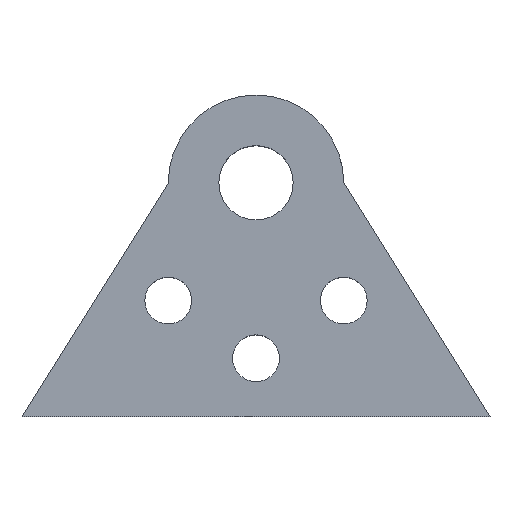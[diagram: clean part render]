
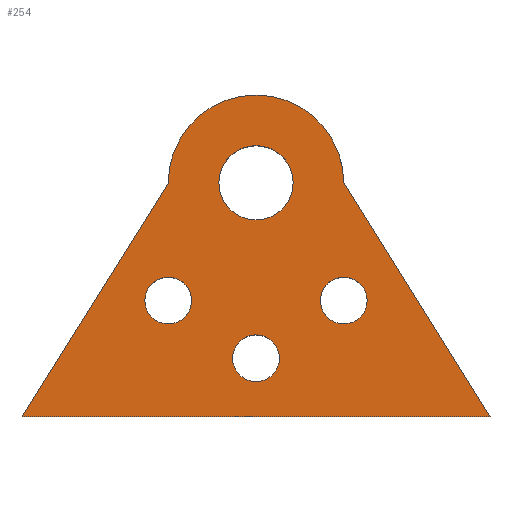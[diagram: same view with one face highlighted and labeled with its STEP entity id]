
A CAD part, top view. The second image highlights one B-rep face of the part: STEP entity #254.
In plain terms, the highlighted planar face has unit normal (0, 0, 1).
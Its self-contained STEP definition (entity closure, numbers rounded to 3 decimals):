
#24=FACE_BOUND('',#96,.T.);
#25=FACE_BOUND('',#97,.T.);
#26=FACE_BOUND('',#98,.T.);
#27=FACE_BOUND('',#99,.T.);
#36=LINE('',#435,#51);
#38=LINE('',#439,#53);
#42=LINE('',#449,#57);
#51=VECTOR('',#363,10.);
#53=VECTOR('',#367,10.);
#57=VECTOR('',#379,10.);
#63=PLANE('',#300);
#77=FACE_OUTER_BOUND('',#95,.T.);
#95=EDGE_LOOP('',(#229,#230,#231,#232,#233));
#96=EDGE_LOOP('',(#234));
#97=EDGE_LOOP('',(#235));
#98=EDGE_LOOP('',(#236));
#99=EDGE_LOOP('',(#237));
#106=CIRCLE('',#278,2.);
#109=CIRCLE('',#283,2.);
#112=CIRCLE('',#288,2.);
#115=CIRCLE('',#293,3.175);
#116=CIRCLE('',#297,7.5);
#117=CIRCLE('',#298,7.5);
#126=VERTEX_POINT('',#403);
#128=VERTEX_POINT('',#411);
#130=VERTEX_POINT('',#419);
#133=VERTEX_POINT('',#428);
#134=VERTEX_POINT('',#432);
#135=VERTEX_POINT('',#434);
#136=VERTEX_POINT('',#438);
#137=VERTEX_POINT('',#442);
#138=VERTEX_POINT('',#445);
#148=EDGE_CURVE('',#126,#126,#106,.T.);
#152=EDGE_CURVE('',#128,#128,#109,.T.);
#156=EDGE_CURVE('',#130,#130,#112,.T.);
#160=EDGE_CURVE('',#133,#133,#115,.T.);
#163=EDGE_CURVE('',#135,#134,#36,.T.);
#165=EDGE_CURVE('',#136,#135,#38,.T.);
#167=EDGE_CURVE('',#137,#136,#116,.T.);
#169=EDGE_CURVE('',#138,#137,#117,.T.);
#171=EDGE_CURVE('',#134,#138,#42,.T.);
#229=ORIENTED_EDGE('',*,*,#171,.T.);
#230=ORIENTED_EDGE('',*,*,#169,.T.);
#231=ORIENTED_EDGE('',*,*,#167,.T.);
#232=ORIENTED_EDGE('',*,*,#165,.T.);
#233=ORIENTED_EDGE('',*,*,#163,.T.);
#234=ORIENTED_EDGE('',*,*,#156,.T.);
#235=ORIENTED_EDGE('',*,*,#160,.T.);
#236=ORIENTED_EDGE('',*,*,#148,.T.);
#237=ORIENTED_EDGE('',*,*,#152,.T.);
#254=ADVANCED_FACE('',(#77,#24,#25,#26,#27),#63,.T.);
#278=AXIS2_PLACEMENT_3D('',#404,#324,#325);
#283=AXIS2_PLACEMENT_3D('',#412,#335,#336);
#288=AXIS2_PLACEMENT_3D('',#420,#346,#347);
#293=AXIS2_PLACEMENT_3D('',#429,#357,#358);
#297=AXIS2_PLACEMENT_3D('',#443,#371,#372);
#298=AXIS2_PLACEMENT_3D('',#446,#374,#375);
#300=AXIS2_PLACEMENT_3D('',#450,#380,#381);
#324=DIRECTION('center_axis',(0.,0.,-1.));
#325=DIRECTION('ref_axis',(1.,0.,0.));
#335=DIRECTION('center_axis',(0.,0.,-1.));
#336=DIRECTION('ref_axis',(1.,0.,0.));
#346=DIRECTION('center_axis',(0.,0.,-1.));
#347=DIRECTION('ref_axis',(1.,0.,0.));
#357=DIRECTION('center_axis',(0.,0.,-1.));
#358=DIRECTION('ref_axis',(1.,0.,0.));
#363=DIRECTION('',(1.,0.,0.));
#367=DIRECTION('',(-0.531,-0.847,0.));
#371=DIRECTION('center_axis',(0.,0.,1.));
#372=DIRECTION('ref_axis',(1.,0.,0.));
#374=DIRECTION('center_axis',(0.,0.,1.));
#375=DIRECTION('ref_axis',(1.,0.,0.));
#379=DIRECTION('',(-0.53,0.848,0.));
#380=DIRECTION('center_axis',(0.,0.,1.));
#381=DIRECTION('ref_axis',(1.,0.,0.));
#403=CARTESIAN_POINT('',(-2.,-15.,7.));
#404=CARTESIAN_POINT('Origin',(0.,-15.,7.));
#411=CARTESIAN_POINT('',(-9.5,-10.069,7.));
#412=CARTESIAN_POINT('Origin',(-7.5,-10.069,7.));
#419=CARTESIAN_POINT('',(5.501,-10.069,7.));
#420=CARTESIAN_POINT('Origin',(7.501,-10.069,7.));
#428=CARTESIAN_POINT('',(-3.175,0.,7.));
#429=CARTESIAN_POINT('Origin',(0.,0.,7.));
#432=CARTESIAN_POINT('',(20.,-20.,7.));
#434=CARTESIAN_POINT('',(-20.,-20.,7.));
#435=CARTESIAN_POINT('',(-20.,-20.,7.));
#438=CARTESIAN_POINT('',(-7.5,-0.075,7.));
#439=CARTESIAN_POINT('',(-7.5,-0.075,7.));
#442=CARTESIAN_POINT('',(-7.5,0.,7.));
#443=CARTESIAN_POINT('Origin',(0.,0.,7.));
#445=CARTESIAN_POINT('',(7.5,0.002,7.));
#446=CARTESIAN_POINT('Origin',(0.,0.,7.));
#449=CARTESIAN_POINT('',(20.,-20.,7.));
#450=CARTESIAN_POINT('Origin',(0.,-6.25,7.));
